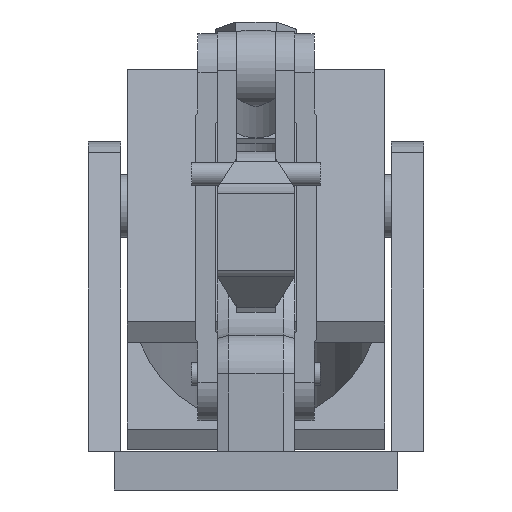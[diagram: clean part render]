
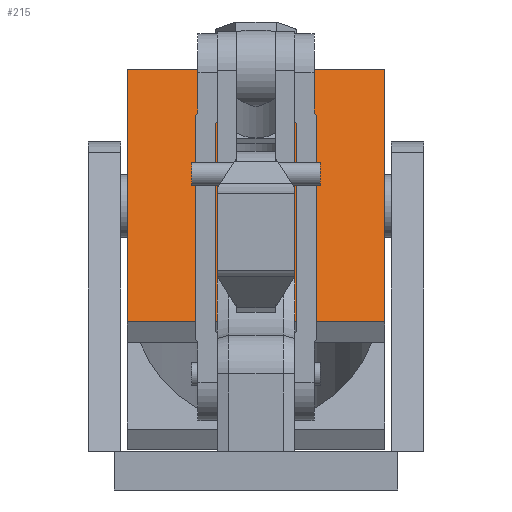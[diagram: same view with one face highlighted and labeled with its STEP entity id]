
A CAD part, left-side view. The second image highlights one B-rep face of the part: STEP entity #215.
In plain terms, the highlighted planar face has unit normal (-0.979, 0, 0.203).
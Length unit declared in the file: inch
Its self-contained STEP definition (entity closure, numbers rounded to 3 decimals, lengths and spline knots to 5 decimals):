
#215=ADVANCED_FACE('',(#833,#565),#428,.F.);
#428=PLANE('',#3622);
#565=FACE_BOUND('',#1013,.T.);
#690=CIRCLE('',#3621,0.3125);
#833=FACE_OUTER_BOUND('',#1012,.T.);
#1012=EDGE_LOOP('',(#1316,#1317,#1318,#1319));
#1013=EDGE_LOOP('',(#1320));
#1316=ORIENTED_EDGE('',*,*,#2555,.F.);
#1317=ORIENTED_EDGE('',*,*,#2556,.F.);
#1318=ORIENTED_EDGE('',*,*,#2557,.F.);
#1319=ORIENTED_EDGE('',*,*,#2558,.F.);
#1320=ORIENTED_EDGE('',*,*,#2559,.F.);
#2230=VERTEX_POINT('',#5009);
#2231=VERTEX_POINT('',#5010);
#2232=VERTEX_POINT('',#5012);
#2233=VERTEX_POINT('',#5014);
#2234=VERTEX_POINT('',#5017);
#2555=EDGE_CURVE('',#2230,#2231,#3012,.T.);
#2556=EDGE_CURVE('',#2232,#2230,#3013,.T.);
#2557=EDGE_CURVE('',#2233,#2232,#3014,.T.);
#2558=EDGE_CURVE('',#2231,#2233,#3015,.T.);
#2559=EDGE_CURVE('',#2234,#2234,#690,.T.);
#3012=LINE('',#5008,#3316);
#3013=LINE('',#5011,#3317);
#3014=LINE('',#5013,#3318);
#3015=LINE('',#5015,#3319);
#3316=VECTOR('',#3983,1.);
#3317=VECTOR('',#3984,1.);
#3318=VECTOR('',#3985,1.);
#3319=VECTOR('',#3986,1.);
#3621=AXIS2_PLACEMENT_3D('',#5016,#3987,#3988);
#3622=AXIS2_PLACEMENT_3D('',#5018,#3989,#3990);
#3983=DIRECTION('',(0.,-1.,0.));
#3984=DIRECTION('',(0.203,0.,0.979));
#3985=DIRECTION('',(0.,1.,0.));
#3986=DIRECTION('',(-0.203,0.,-0.979));
#3987=DIRECTION('',(-0.979,0.,0.203));
#3988=DIRECTION('',(0.,-1.,0.));
#3989=DIRECTION('',(0.979,0.,-0.203));
#3990=DIRECTION('',(0.,1.,0.));
#5008=CARTESIAN_POINT('',(6.44247,2.3125,4.07713));
#5009=CARTESIAN_POINT('',(6.44247,2.3125,4.07713));
#5010=CARTESIAN_POINT('',(6.44247,-0.1875,4.07713));
#5011=CARTESIAN_POINT('',(5.93614,2.3125,1.62894));
#5012=CARTESIAN_POINT('',(5.93614,2.3125,1.62894));
#5013=CARTESIAN_POINT('',(5.93614,-0.1875,1.62894));
#5014=CARTESIAN_POINT('',(5.93614,-0.1875,1.62894));
#5015=CARTESIAN_POINT('',(6.44247,-0.1875,4.07713));
#5016=CARTESIAN_POINT('',(6.18931,1.0625,2.85304));
#5017=CARTESIAN_POINT('',(6.18931,0.75,2.85304));
#5018=CARTESIAN_POINT('',(6.18931,1.0625,2.85304));
